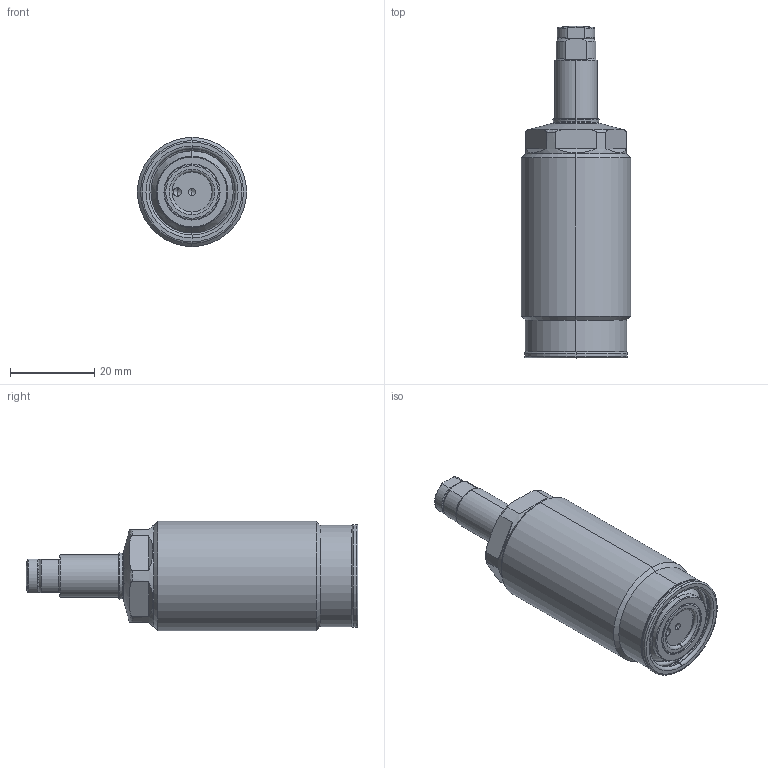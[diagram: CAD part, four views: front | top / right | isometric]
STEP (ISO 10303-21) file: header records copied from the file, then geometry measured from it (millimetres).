
FILE_DESCRIPTION(/* description */ (''),/* implementation_level */ '2;1');
FILE_NAME(/* name */ 'TSS26-Q.stp',/* time_stamp */ '2026-02-04T13:06:22+08:00',/* author */ (''),/* organization */ (''),/* preprocessor_version */ 'ST-DEVELOPER v16.7',/* originating_system */ 'SIEMENS PLM Software NX 12.0',/* authorisation */ '');
FILE_SCHEMA (('AUTOMOTIVE_DESIGN { 1 0 10303 214 3 1 1 1 }'));
Length unit declared in the file: millimetre
Products named in the file (7): XLD-M6_Oring; XLD-M6_contactbolt; AS568-020(90); TSS26-Q-02; TSS26-Q-01; TSS26-Q-03; LD0263-EQ_step
Assembly tree (6 placements, depth 3):
  LD0263-EQ_step
    TSS26-Q-03
      XLD-M6_contactbolt
      XLD-M6_Oring
    TSS26-Q-01
    TSS26-Q-02
    AS568-020(90)
Bounding box: 26 x 79 x 26 mm (x, y, z)
Volume: 28025.1 mm3; surface area: 8067 mm2
Topology: 5 solids, 5 shells, 173 faces, 380 edges, 223 vertices
Faces by surface type: torus 60, cylinder 42, plane 35, cone 34, sphere 2
Entity records: 5232 total; most frequent: CARTESIAN_POINT 1199, DIRECTION 922, ORIENTED_EDGE 752, AXIS2_PLACEMENT_3D 410, EDGE_CURVE 376, CIRCLE 230, VERTEX_POINT 223, EDGE_LOOP 187
